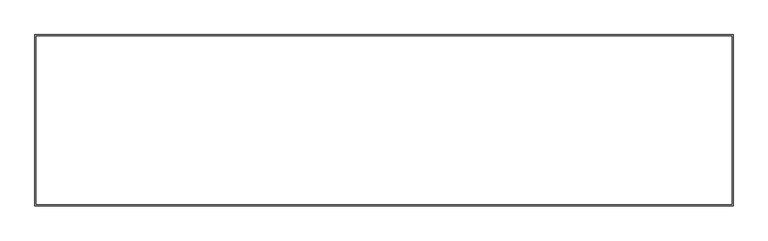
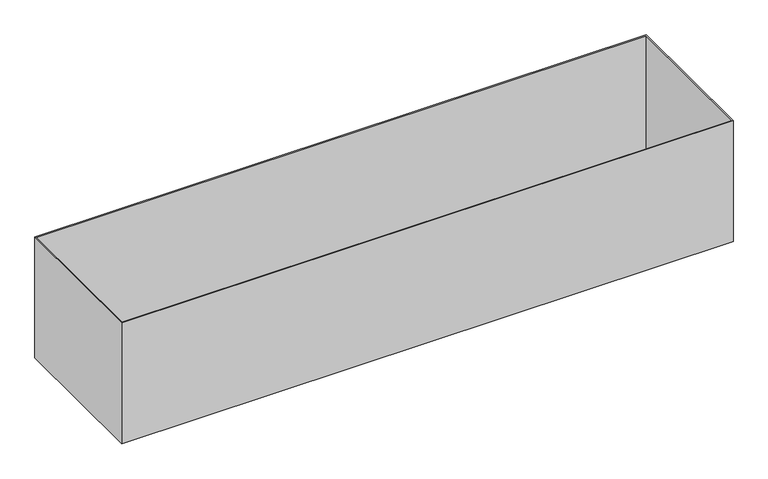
"""IFC4 building model written with IfcOpenShell, lengths in millimetres: beam geometry, Insulation and doors-CONFIG-4 : Insulation and doors-CONFIG-4."""

from ifc_helpers import new_model, si_unit, frame, origin, place, context, project, spatial, polyline, outline, extrude, source, transform, mapped, element, save


def beam_8df811e3(model_context):
    return source(origin(), model_context, "Body", "SweptSolid", [
        extrude(outline(polyline([(13770.3311491, 3337.8609665), (13770.3311491, 14.8788175), (228.2585844, 14.8788175), (228.2585844, 3337.8609665), (13770.3311491, 3337.8609665)]), holes=[polyline([(13741.3311491, 43.8788175), (13741.3311491, 3308.5516525), (257.2585844, 3308.5516525), (257.2585844, 43.8788175), (13741.3311491, 43.8788175)])]), frame((0.0, 0.0, 409.0902583), z_axis=(0.0, 0.0, 1.0), x_axis=(1.0, 0.0, 0.0)), (0.0, 0.0, 1.0), 2828.0),
    ])


if __name__ == "__main__":
    model = new_model("IFC4")
    model_context = context("Model", 3, world=origin())
    ifc_project = project(units=[si_unit("LENGTHUNIT", "METRE", prefix="MILLI")], contexts=[model_context])
    site = spatial("IfcSite", under=ifc_project)
    building = spatial("IfcBuilding", under=site)
    placement = place(None, origin())
    beam_shape = beam_8df811e3(model_context)
    element("IfcBeam", 1, ObjectType="Insulation and doors-CONFIG-4 : Insulation and doors-CONFIG-4", at=placement, inside=building, context=model_context, shape_type="MappedRepresentation", body=[
        mapped(beam_shape, transform((0.0, 0.0, 0.0), x_axis=(1.0, 0.0, 0.0), y_axis=(0.0, 1.0, 0.0), z_axis=(0.0, 0.0, 1.0))),
    ])
    save(model, "model.ifc")
